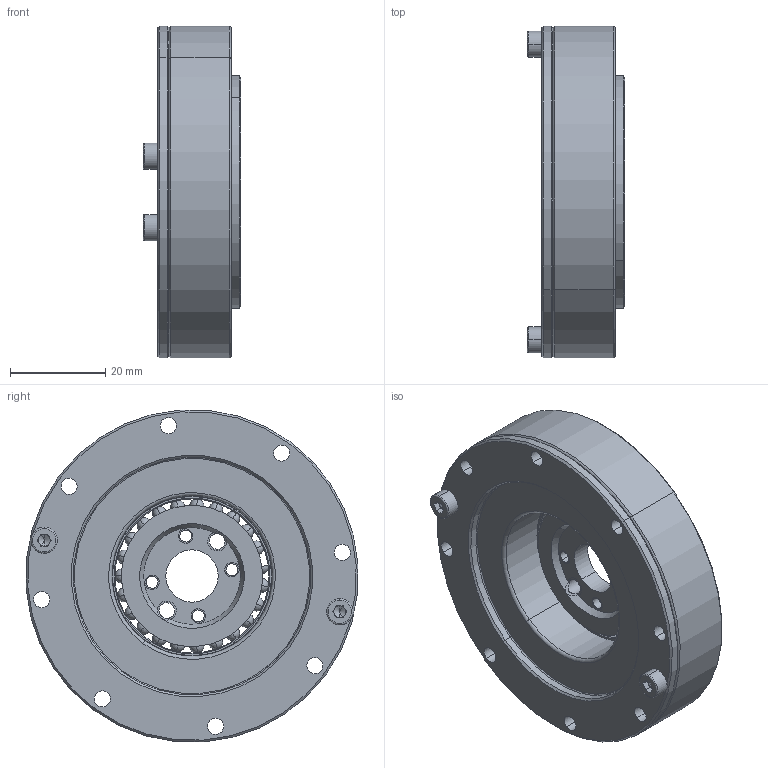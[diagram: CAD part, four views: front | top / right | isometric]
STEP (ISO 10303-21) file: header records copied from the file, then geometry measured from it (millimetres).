
FILE_DESCRIPTION((''),'2;1');
FILE_NAME('LHD-14-XX-U-I_ASM','2019-10-23T',('Administrator'),(''),'PRO/ENGINEER BY PARAMETRIC TECHNOLOGY CORPORATION, 2014200','PRO/ENGINEER BY PARAMETRIC TECHNOLOGY CORPORATION, 2014200','');
FILE_SCHEMA(('AUTOMOTIVE_DESIGN { 1 0 10303 214 1 1 1 1 }'));
Length unit declared in the file: millimetre
Products named in the file (12): RZC-14_1; LHD-14-XXX-P01_1; MANIFOLD_SOLID_BREP_9775; MANIFOLD_SOLID_BREP_12315; LHD-14-XXX-P04_1_ASM; LHD-14-XXX-P02_1; YF-14-I_1; SOCKET_HEAD_CAP_SCREW_DIN-24361; SOCKET_HEAD_CAP_SCREW_DIN-25289; LHD-14-XXX-C-I_ASM_1_ASM; PRT0142; LHD-14-XX-U-I_ASM
Assembly tree (27 placements, depth 4):
  LHD-14-XX-U-I_ASM
    LHD-14-XXX-C-I_ASM_1_ASM
      RZC-14_1
      LHD-14-XXX-P01_1
      LHD-14-XXX-P04_1_ASM
        MANIFOLD_SOLID_BREP_9775
        MANIFOLD_SOLID_BREP_12315
      LHD-14-XXX-P02_1
      YF-14-I_1
      SOCKET_HEAD_CAP_SCREW_DIN-24361  x16
      SOCKET_HEAD_CAP_SCREW_DIN-25289  x2
    PRT0142
Bounding box: 20.5 x 69.84 x 69.84 mm (x, y, z)
Volume: 41795.5 mm3; surface area: 41619.6 mm2
Topology: 25 solids, 31 shells, 989 faces, 2559 edges, 1494 vertices
Faces by surface type: cylinder 324, plane 320, cone 168, torus 129, sphere 48
Entity records: 20252 total; most frequent: CARTESIAN_POINT 4819, DIRECTION 3352, ORIENTED_EDGE 2960, EDGE_CURVE 1495, AXIS2_PLACEMENT_3D 1470, VERTEX_POINT 966, CIRCLE 847, EDGE_LOOP 723
